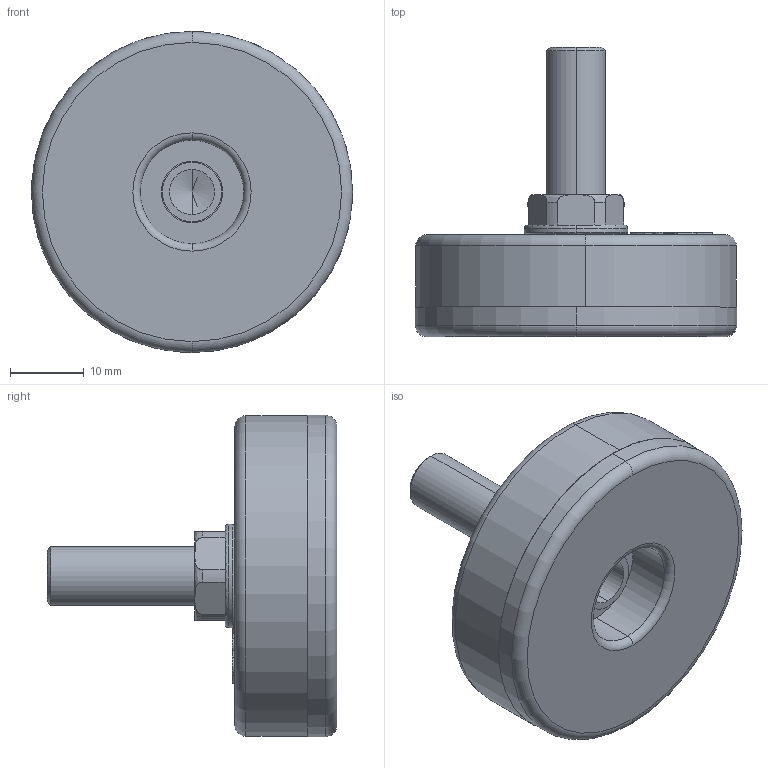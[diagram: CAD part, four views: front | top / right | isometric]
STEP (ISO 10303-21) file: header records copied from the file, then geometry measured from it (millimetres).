
FILE_DESCRIPTION (( 'STEP AP203' ), '1' );
FILE_NAME ('R-40-820-TPU.STEP', '2020-09-11T02:22:09', ( '' ), ( '' ), 'SwSTEP 2.0', 'SolidWorks 2016', '' );
FILE_SCHEMA (( 'CONFIG_CONTROL_DESIGN' ));
Length unit declared in the file: millimetre
Products named in the file (4): S倰覃誹褐_40裔赽; R-40-820-TPU; 穩諉蹟裝M8炵蹈_M8X20; S倰覃誹褐_40菁菜
Assembly tree (3 placements, depth 2):
  R-40-820-TPU
    S倰覃誹褐_40菁菜
    S倰覃誹褐_40裔赽
    穩諉蹟裝M8炵蹈_M8X20
Bounding box: 43.5 x 39.2 x 43.5 mm (x, y, z)
Volume: 10972.4 mm3; surface area: 12494.9 mm2
Topology: 3 solids, 3 shells, 136 faces, 326 edges, 209 vertices
Faces by surface type: plane 68, cylinder 34, bspline 22, torus 8, cone 4
Entity records: 6486 total; most frequent: CARTESIAN_POINT 3027, ORIENTED_EDGE 648, DIRECTION 596, EDGE_CURVE 324, AXIS2_PLACEMENT_3D 212, VERTEX_POINT 209, LINE 172, VECTOR 172
